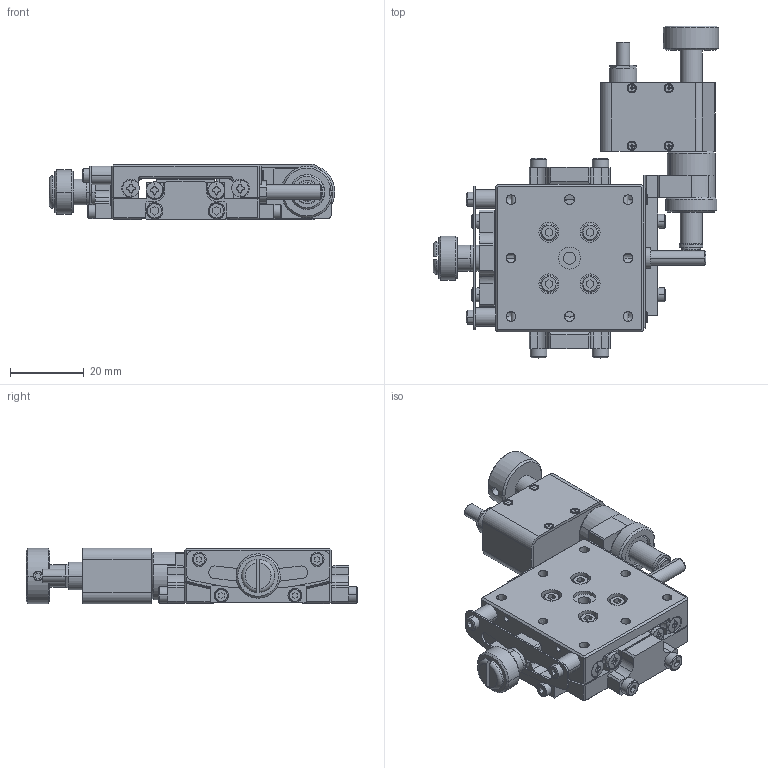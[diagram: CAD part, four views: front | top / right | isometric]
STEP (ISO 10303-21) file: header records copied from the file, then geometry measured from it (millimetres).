
FILE_DESCRIPTION (( 'STEP AP214' ), '1' );
FILE_NAME ('GOHT-40A60BMSUU-PDM.STEP', '2024-05-24T05:15:01', ( '' ), ( '' ), 'SwSTEP 2.0', 'SolidWorks 2023', '' );
FILE_SCHEMA (( 'AUTOMOTIVE_DESIGN' ));
Length unit declared in the file: millimetre
Products named in the file (7): GOHT40A60BSUU-M02-08001-S11; PDM13ACT-M02-20001-P01; GOHT40A60BSUU-M02-08001-S10; GOHT-40A60BMSUU; GOHT-40A60BMSUU-PDM; PDM-13ACT; PDM13ACT-M02-20001-S02
Assembly tree (6 placements, depth 3):
  GOHT-40A60BMSUU-PDM
    GOHT-40A60BMSUU
      GOHT40A60BSUU-M02-08001-S10
      GOHT40A60BSUU-M02-08001-S11
    PDM-13ACT
      PDM13ACT-M02-20001-P01
      PDM13ACT-M02-20001-S02
Bounding box: 77.5 x 90.1 x 15.1 mm (x, y, z)
Volume: 35516 mm3; surface area: 24003.5 mm2
Topology: 15 solids, 36 shells, 1483 faces, 3655 edges, 2314 vertices
Faces by surface type: plane 717, cylinder 354, bspline 235, cone 151, sphere 16, torus 10
Entity records: 54993 total; most frequent: CARTESIAN_POINT 23356, ORIENTED_EDGE 7198, DIRECTION 5291, EDGE_CURVE 3599, VERTEX_POINT 2314, AXIS2_PLACEMENT_3D 2008, EDGE_LOOP 1681, FACE_OUTER_BOUND 1483
